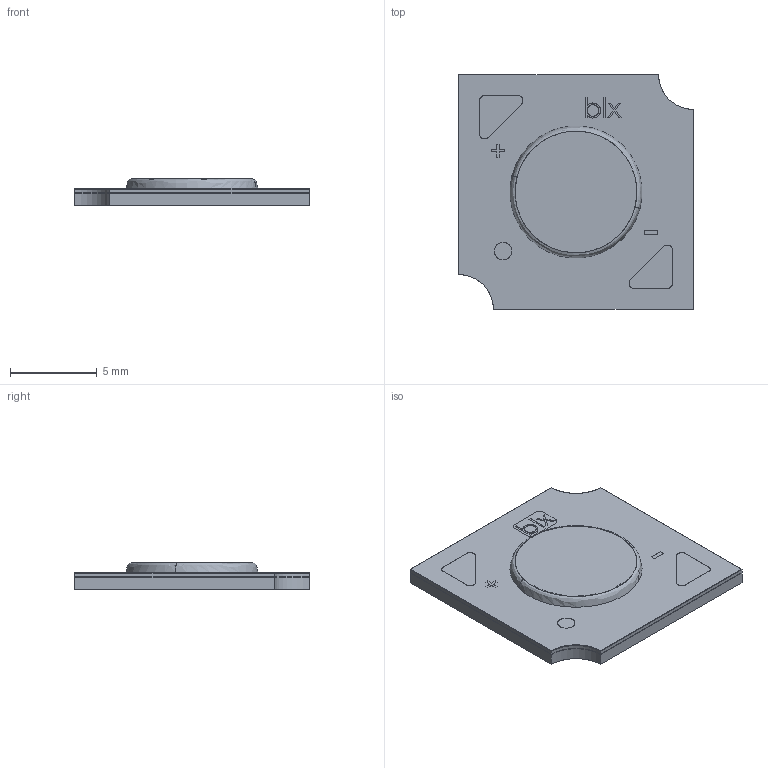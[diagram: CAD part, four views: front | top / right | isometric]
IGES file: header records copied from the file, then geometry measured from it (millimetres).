
Start section: SolidWorks IGES file using analytic representation for surfaces
Global section: file name: C:\Users\jiaqichen\Desktop\V Series HD\V6\CAD Files\V-6 Single Array.IGS; native system: SolidWorks 2018; preprocessor: SolidWorks 2018; author: jiaqichen; date: 180212.150726; units: millimetre
Bounding box: 13.5 x 13.5 x 1.52 mm (x, y, z)
Surface area: 709.4 mm2 (no closed solid volume)
Topology: 0 solids, 0 shells, 85 faces, 1229 edges, 1229 vertices
Faces by surface type: bspline 71, revolution 14
